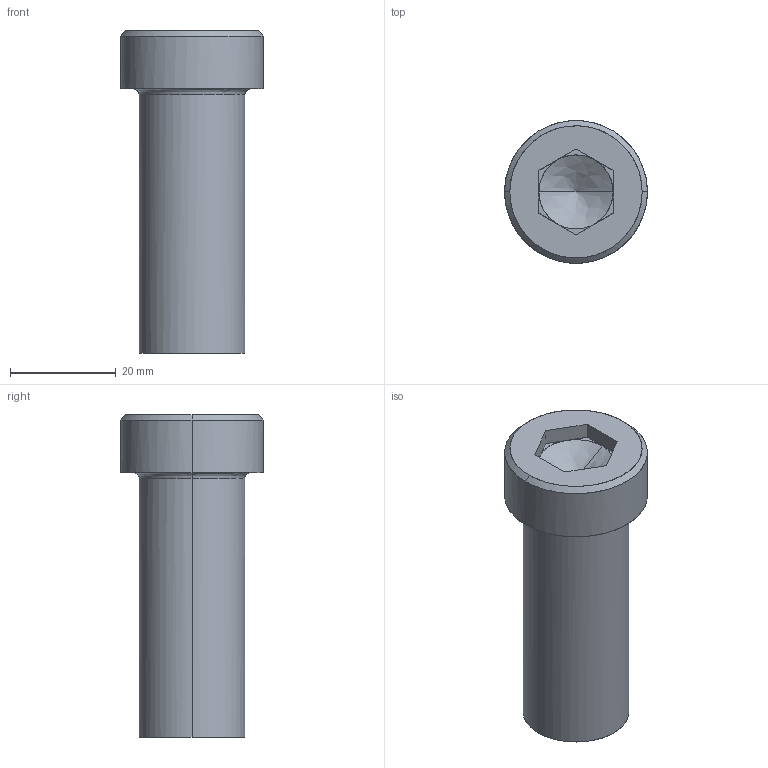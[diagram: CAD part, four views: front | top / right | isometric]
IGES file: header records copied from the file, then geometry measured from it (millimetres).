
Global section: file name: E:\UnigraphicsGraphicData\MISUMI_PRESS-PARTS\IGES\3d_sbtkn20-50_05167_r00.igs; native system: NX V5.0; preprocessor: UGS NX IGES V5.0; author: MISUMI; date: 20110105.162503; units: millimetre
Bounding box: 27 x 27 x 61 mm (x, y, z)
Surface area: 6219.7 mm2 (no closed solid volume)
Topology: 0 solids, 0 shells, 32 faces, 186 edges, 182 vertices
Faces by surface type: bspline 32
